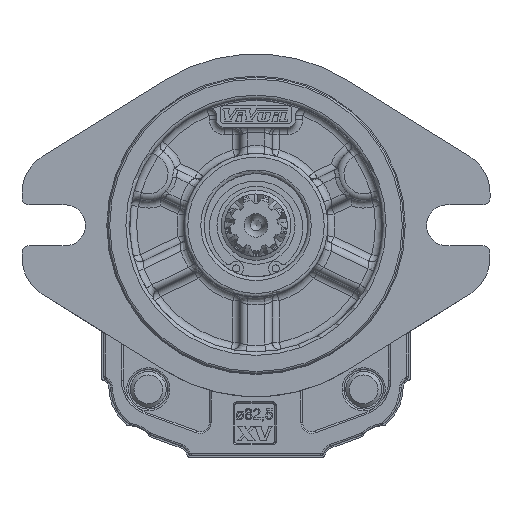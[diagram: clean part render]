
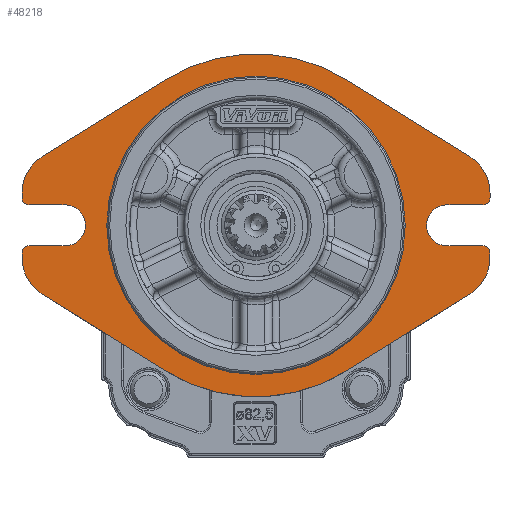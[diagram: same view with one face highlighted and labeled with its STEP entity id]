
A CAD part, front view. The second image highlights one B-rep face of the part: STEP entity #48218.
In plain terms, the highlighted planar face has unit normal (0, -1, 0).
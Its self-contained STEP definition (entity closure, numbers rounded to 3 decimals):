
#2848=LINE('',#68141,#4941);
#2852=LINE('',#68153,#4945);
#2853=LINE('',#68155,#4946);
#2860=LINE('',#68174,#4953);
#2861=LINE('',#68176,#4954);
#2868=LINE('',#68205,#4961);
#2869=LINE('',#68210,#4962);
#2870=LINE('',#68214,#4963);
#2871=LINE('',#68217,#4964);
#2872=LINE('',#68221,#4965);
#2873=LINE('',#68225,#4966);
#2874=LINE('',#68229,#4967);
#4941=VECTOR('',#55566,1000.);
#4945=VECTOR('',#55578,1000.);
#4946=VECTOR('',#55581,1000.);
#4953=VECTOR('',#55596,1000.);
#4954=VECTOR('',#55599,1000.);
#4961=VECTOR('',#55628,1000.);
#4962=VECTOR('',#55631,1000.);
#4963=VECTOR('',#55634,1000.);
#4964=VECTOR('',#55639,1000.);
#4965=VECTOR('',#55642,1000.);
#4966=VECTOR('',#55645,1000.);
#4967=VECTOR('',#55648,1000.);
#6683=PLANE('',#50769);
#10221=ORIENTED_EDGE('',*,*,#19542,.T.);
#10222=ORIENTED_EDGE('',*,*,#19543,.F.);
#10223=ORIENTED_EDGE('',*,*,#19544,.T.);
#10224=ORIENTED_EDGE('',*,*,#19545,.F.);
#10225=ORIENTED_EDGE('',*,*,#19546,.F.);
#10226=ORIENTED_EDGE('',*,*,#19547,.F.);
#10227=ORIENTED_EDGE('',*,*,#19463,.F.);
#10228=ORIENTED_EDGE('',*,*,#19512,.F.);
#10229=ORIENTED_EDGE('',*,*,#19515,.F.);
#10230=ORIENTED_EDGE('',*,*,#19518,.F.);
#10231=ORIENTED_EDGE('',*,*,#19548,.T.);
#10232=ORIENTED_EDGE('',*,*,#19519,.F.);
#10233=ORIENTED_EDGE('',*,*,#19525,.F.);
#10234=ORIENTED_EDGE('',*,*,#19528,.F.);
#10235=ORIENTED_EDGE('',*,*,#19549,.T.);
#10236=ORIENTED_EDGE('',*,*,#19529,.F.);
#10237=ORIENTED_EDGE('',*,*,#19541,.F.);
#10238=ORIENTED_EDGE('',*,*,#19550,.F.);
#10239=ORIENTED_EDGE('',*,*,#19551,.F.);
#10240=ORIENTED_EDGE('',*,*,#19552,.F.);
#10241=ORIENTED_EDGE('',*,*,#19553,.F.);
#10242=ORIENTED_EDGE('',*,*,#19554,.F.);
#10243=ORIENTED_EDGE('',*,*,#19555,.T.);
#10244=ORIENTED_EDGE('',*,*,#19556,.F.);
#10245=ORIENTED_EDGE('',*,*,#19557,.F.);
#19463=EDGE_CURVE('',#24271,#24272,#27049,.T.);
#19512=EDGE_CURVE('',#24314,#24271,#2848,.T.);
#19515=EDGE_CURVE('',#24316,#24314,#27077,.T.);
#19518=EDGE_CURVE('',#24318,#24316,#2852,.T.);
#19519=EDGE_CURVE('',#24319,#24320,#2853,.T.);
#19525=EDGE_CURVE('',#24324,#24319,#27079,.T.);
#19528=EDGE_CURVE('',#24326,#24324,#2860,.T.);
#19529=EDGE_CURVE('',#24327,#24328,#2861,.T.);
#19541=EDGE_CURVE('',#24336,#24327,#27085,.T.);
#19542=EDGE_CURVE('',#24337,#24337,#27086,.T.);
#19543=EDGE_CURVE('',#24338,#24339,#2868,.T.);
#19544=EDGE_CURVE('',#24338,#24340,#27087,.F.);
#19545=EDGE_CURVE('',#24341,#24340,#2869,.T.);
#19546=EDGE_CURVE('',#24342,#24341,#27088,.T.);
#19547=EDGE_CURVE('',#24272,#24342,#2870,.T.);
#19548=EDGE_CURVE('',#24318,#24320,#27089,.F.);
#19549=EDGE_CURVE('',#24326,#24328,#27090,.F.);
#19550=EDGE_CURVE('',#24343,#24336,#2871,.T.);
#19551=EDGE_CURVE('',#24344,#24343,#27091,.T.);
#19552=EDGE_CURVE('',#24345,#24344,#2872,.T.);
#19553=EDGE_CURVE('',#24346,#24345,#27092,.T.);
#19554=EDGE_CURVE('',#24347,#24346,#2873,.T.);
#19555=EDGE_CURVE('',#24347,#24348,#27093,.F.);
#19556=EDGE_CURVE('',#24349,#24348,#2874,.T.);
#19557=EDGE_CURVE('',#24339,#24349,#27094,.T.);
#24271=VERTEX_POINT('',#68016);
#24272=VERTEX_POINT('',#68018);
#24314=VERTEX_POINT('',#68140);
#24316=VERTEX_POINT('',#68146);
#24318=VERTEX_POINT('',#68152);
#24319=VERTEX_POINT('',#68156);
#24320=VERTEX_POINT('',#68157);
#24324=VERTEX_POINT('',#68167);
#24326=VERTEX_POINT('',#68173);
#24327=VERTEX_POINT('',#68177);
#24328=VERTEX_POINT('',#68178);
#24336=VERTEX_POINT('',#68200);
#24337=VERTEX_POINT('',#68204);
#24338=VERTEX_POINT('',#68206);
#24339=VERTEX_POINT('',#68207);
#24340=VERTEX_POINT('',#68209);
#24341=VERTEX_POINT('',#68211);
#24342=VERTEX_POINT('',#68213);
#24343=VERTEX_POINT('',#68218);
#24344=VERTEX_POINT('',#68220);
#24345=VERTEX_POINT('',#68222);
#24346=VERTEX_POINT('',#68224);
#24347=VERTEX_POINT('',#68226);
#24348=VERTEX_POINT('',#68228);
#24349=VERTEX_POINT('',#68230);
#27049=CIRCLE('',#50718,47.75);
#27077=CIRCLE('',#50752,12.);
#27079=CIRCLE('',#50757,5.7);
#27085=CIRCLE('',#50768,12.);
#27086=CIRCLE('',#50770,40.982);
#27087=CIRCLE('',#50771,2.);
#27088=CIRCLE('',#50772,12.);
#27089=CIRCLE('',#50773,2.);
#27090=CIRCLE('',#50774,2.);
#27091=CIRCLE('',#50775,47.75);
#27092=CIRCLE('',#50776,12.);
#27093=CIRCLE('',#50777,2.);
#27094=CIRCLE('',#50778,5.7);
#28881=EDGE_LOOP('',(#10221));
#28882=EDGE_LOOP('',(#10222,#10223,#10224,#10225,#10226,#10227,#10228,#10229,
#10230,#10231,#10232,#10233,#10234,#10235,#10236,#10237,#10238,#10239,#10240,
#10241,#10242,#10243,#10244,#10245));
#31261=FACE_BOUND('',#28881,.T.);
#31262=FACE_BOUND('',#28882,.T.);
#48218=ADVANCED_FACE('',(#31261,#31262),#6683,.F.);
#50718=AXIS2_PLACEMENT_3D('',#68017,#55482,#55483);
#50752=AXIS2_PLACEMENT_3D('',#68147,#55572,#55573);
#50757=AXIS2_PLACEMENT_3D('',#68168,#55590,#55591);
#50768=AXIS2_PLACEMENT_3D('',#68201,#55622,#55623);
#50769=AXIS2_PLACEMENT_3D('',#68202,#55624,#55625);
#50770=AXIS2_PLACEMENT_3D('',#68203,#55626,#55627);
#50771=AXIS2_PLACEMENT_3D('',#68208,#55629,#55630);
#50772=AXIS2_PLACEMENT_3D('',#68212,#55632,#55633);
#50773=AXIS2_PLACEMENT_3D('',#68215,#55635,#55636);
#50774=AXIS2_PLACEMENT_3D('',#68216,#55637,#55638);
#50775=AXIS2_PLACEMENT_3D('',#68219,#55640,#55641);
#50776=AXIS2_PLACEMENT_3D('',#68223,#55643,#55644);
#50777=AXIS2_PLACEMENT_3D('',#68227,#55646,#55647);
#50778=AXIS2_PLACEMENT_3D('',#68231,#55649,#55650);
#55482=DIRECTION('',(0.,1.,0.));
#55483=DIRECTION('',(-1.,0.,0.));
#55566=DIRECTION('',(-0.849,0.,-0.528));
#55572=DIRECTION('',(0.,1.,0.));
#55573=DIRECTION('',(-1.,0.,0.));
#55578=DIRECTION('',(0.,0.,-1.));
#55581=DIRECTION('',(1.,0.,0.));
#55590=DIRECTION('',(0.,-1.,0.));
#55591=DIRECTION('',(1.,0.,0.));
#55596=DIRECTION('',(-1.,0.,0.));
#55599=DIRECTION('',(0.,0.,-1.));
#55622=DIRECTION('',(0.,1.,0.));
#55623=DIRECTION('',(-1.,0.,0.));
#55624=DIRECTION('',(0.,1.,0.));
#55625=DIRECTION('',(0.,0.,-1.));
#55626=DIRECTION('',(0.,1.,0.));
#55627=DIRECTION('',(-1.,0.,0.));
#55628=DIRECTION('',(1.,0.,0.));
#55629=DIRECTION('',(0.,1.,0.));
#55630=DIRECTION('',(0.,0.,-1.));
#55631=DIRECTION('',(0.,0.,1.));
#55632=DIRECTION('',(0.,1.,0.));
#55633=DIRECTION('',(1.,0.,0.));
#55634=DIRECTION('',(-0.849,0.,0.528));
#55635=DIRECTION('',(0.,1.,0.));
#55636=DIRECTION('',(0.,0.,-1.));
#55637=DIRECTION('',(0.,1.,0.));
#55638=DIRECTION('',(0.,0.,-1.));
#55639=DIRECTION('',(0.849,0.,-0.528));
#55640=DIRECTION('',(0.,1.,0.));
#55641=DIRECTION('',(-1.,0.,0.));
#55642=DIRECTION('',(0.849,0.,0.528));
#55643=DIRECTION('',(0.,1.,0.));
#55644=DIRECTION('',(1.,0.,0.));
#55645=DIRECTION('',(0.,0.,1.));
#55646=DIRECTION('',(0.,1.,0.));
#55647=DIRECTION('',(0.,0.,-1.));
#55648=DIRECTION('',(-1.,0.,0.));
#55649=DIRECTION('',(0.,-1.,0.));
#55650=DIRECTION('',(-1.,0.,0.));
#68016=CARTESIAN_POINT('',(25.235,-19.,-24.837));
#68017=CARTESIAN_POINT('',(0.,-19.,15.7));
#68018=CARTESIAN_POINT('',(-25.235,-19.,-24.837));
#68140=CARTESIAN_POINT('',(59.532,-19.,-3.487));
#68141=CARTESIAN_POINT('',(59.532,-19.,-3.487));
#68146=CARTESIAN_POINT('',(65.19,-19.,6.7));
#68147=CARTESIAN_POINT('',(53.19,-19.,6.7));
#68152=CARTESIAN_POINT('',(65.19,-19.,8.));
#68153=CARTESIAN_POINT('',(65.19,-19.,6.7));
#68155=CARTESIAN_POINT('',(53.19,-19.,10.));
#68156=CARTESIAN_POINT('',(53.19,-19.,10.));
#68157=CARTESIAN_POINT('',(63.19,-19.,10.));
#68167=CARTESIAN_POINT('',(53.19,-19.,21.4));
#68168=CARTESIAN_POINT('',(53.19,-19.,15.7));
#68173=CARTESIAN_POINT('',(63.19,-19.,21.4));
#68174=CARTESIAN_POINT('',(53.19,-19.,21.4));
#68176=CARTESIAN_POINT('',(65.19,-19.,24.7));
#68177=CARTESIAN_POINT('',(65.19,-19.,24.7));
#68178=CARTESIAN_POINT('',(65.19,-19.,23.4));
#68200=CARTESIAN_POINT('',(59.532,-19.,34.887));
#68201=CARTESIAN_POINT('',(53.19,-19.,24.7));
#68202=CARTESIAN_POINT('',(0.,-19.,15.7));
#68203=CARTESIAN_POINT('',(0.,-19.,15.7));
#68204=CARTESIAN_POINT('',(-40.982,-19.,15.7));
#68205=CARTESIAN_POINT('',(-53.19,-19.,10.));
#68206=CARTESIAN_POINT('',(-63.19,-19.,10.));
#68207=CARTESIAN_POINT('',(-53.19,-19.,10.));
#68208=CARTESIAN_POINT('',(-63.19,-19.,8.));
#68209=CARTESIAN_POINT('',(-65.19,-19.,8.));
#68210=CARTESIAN_POINT('',(-65.19,-19.,6.7));
#68211=CARTESIAN_POINT('',(-65.19,-19.,6.7));
#68212=CARTESIAN_POINT('',(-53.19,-19.,6.7));
#68213=CARTESIAN_POINT('',(-59.532,-19.,-3.487));
#68214=CARTESIAN_POINT('',(-59.532,-19.,-3.487));
#68215=CARTESIAN_POINT('',(63.19,-19.,8.));
#68216=CARTESIAN_POINT('',(63.19,-19.,23.4));
#68217=CARTESIAN_POINT('',(25.235,-19.,56.237));
#68218=CARTESIAN_POINT('',(25.235,-19.,56.237));
#68219=CARTESIAN_POINT('',(0.,-19.,15.7));
#68220=CARTESIAN_POINT('',(-25.235,-19.,56.237));
#68221=CARTESIAN_POINT('',(-25.235,-19.,56.237));
#68222=CARTESIAN_POINT('',(-59.532,-19.,34.887));
#68223=CARTESIAN_POINT('',(-53.19,-19.,24.7));
#68224=CARTESIAN_POINT('',(-65.19,-19.,24.7));
#68225=CARTESIAN_POINT('',(-65.19,-19.,24.7));
#68226=CARTESIAN_POINT('',(-65.19,-19.,23.4));
#68227=CARTESIAN_POINT('',(-63.19,-19.,23.4));
#68228=CARTESIAN_POINT('',(-63.19,-19.,21.4));
#68229=CARTESIAN_POINT('',(-53.19,-19.,21.4));
#68230=CARTESIAN_POINT('',(-53.19,-19.,21.4));
#68231=CARTESIAN_POINT('',(-53.19,-19.,15.7));
